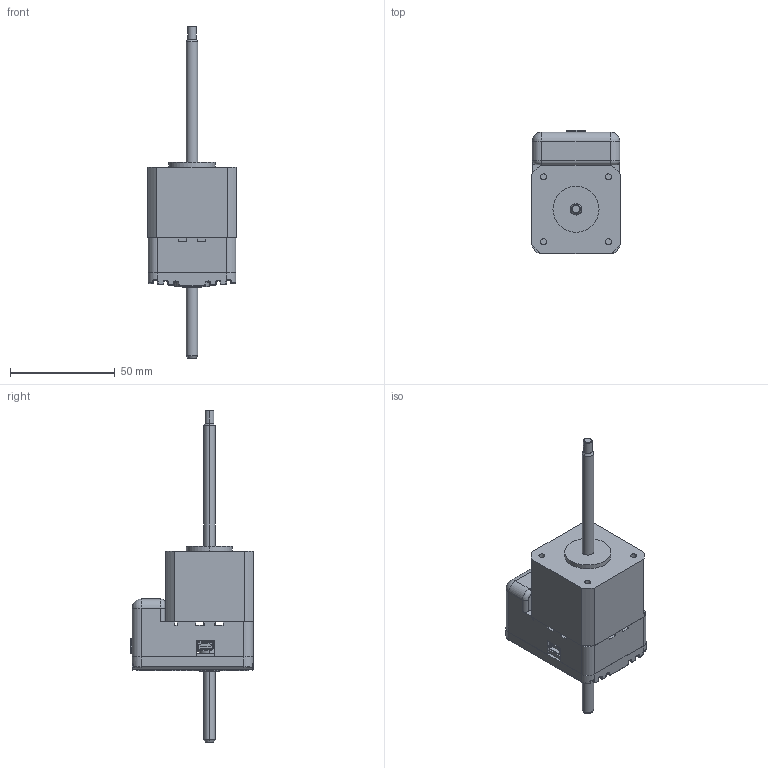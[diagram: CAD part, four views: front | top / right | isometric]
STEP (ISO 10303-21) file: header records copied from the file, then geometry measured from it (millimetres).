
FILE_DESCRIPTION (( 'STEP AP214' ), '1' );
FILE_NAME ('AMETEK-43FGN-2.33-6-PTFE-M3.STEP', '2022-03-03T14:45:45', ( '' ), ( '' ), 'SwSTEP 2.0', 'SolidWorks 2021', '' );
FILE_SCHEMA (( 'AUTOMOTIVE_DESIGN' ));
Length unit declared in the file: inch
Products named in the file (19): AMETEK-43FGN-2.33-6-PTFE-M3; 26-2200; IDEA_Partstream_USB; 28-354_Partstream; Enc_J1_Conn_Hirose_DF3A-10P-2DS; Comm_PCB_Partstream; Main_J2_Conn_Tyco_C-284512-2; 33-580; Main_Board; Enc_J2_Conn_USB_UX60-MB-5ST; Enc_J2; 42-784_91843A109; 43000_Non_Captive_IDEA; Main_j2; 43000_Non_Captive_Screw; Main_PCB_Partstream; Enc_Board; Enc_J1
Assembly tree (18 placements, depth 5):
  AMETEK-43FGN-2.33-6-PTFE-M3
    43000_Non_Captive_IDEA
    43000_Non_Captive_Screw
    IDEA_Partstream_USB
      28-354_Partstream
        28-354_Partstream
        33-580
      Comm_PCB_Partstream
        Enc_J1
          Enc_J1_Conn_Hirose_DF3A-10P-2DS
        Enc_J2
          Enc_J2_Conn_USB_UX60-MB-5ST
        Enc_Board
      Main_PCB_Partstream
        Main_j2
          Main_J2_Conn_Tyco_C-284512-2
        Main_Board
      26-2200
      42-784_91843A109
Bounding box: 42.2 x 58.88 x 158.75 mm (x, y, z)
Volume: 86394.7 mm3; surface area: 44560.4 mm2
Topology: 11 solids, 11 shells, 1881 faces, 4822 edges, 2943 vertices
Faces by surface type: plane 814, cylinder 600, bspline 276, torus 111, cone 64, sphere 16
Entity records: 66983 total; most frequent: CARTESIAN_POINT 21722, ORIENTED_EDGE 9484, DIRECTION 8627, EDGE_CURVE 4742, AXIS2_PLACEMENT_3D 2977, VERTEX_POINT 2941, LINE 2673, VECTOR 2673
